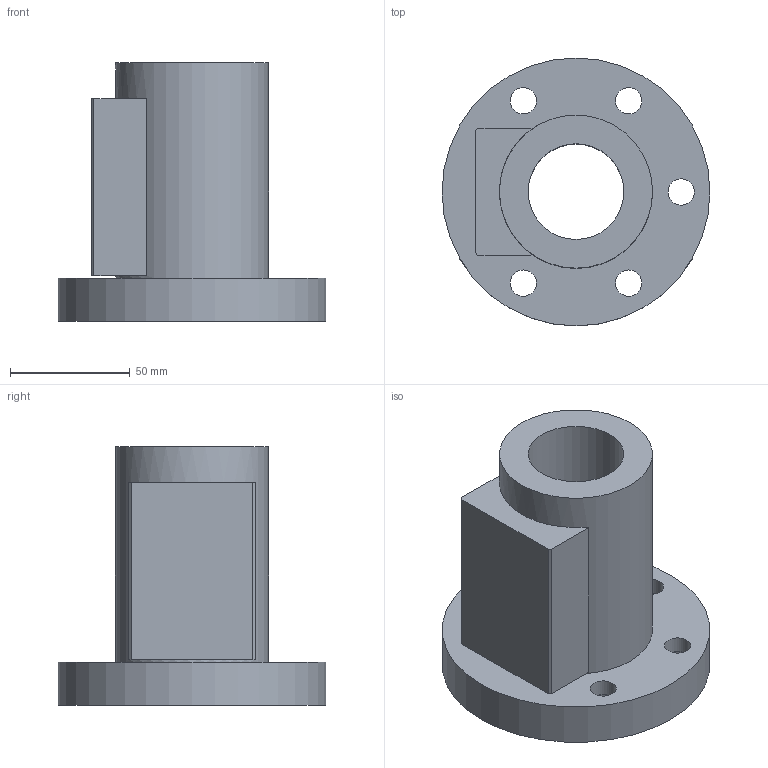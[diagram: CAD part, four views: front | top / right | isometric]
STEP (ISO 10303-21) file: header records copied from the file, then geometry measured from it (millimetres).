
FILE_DESCRIPTION(/* description */ (''),/* implementation_level */ '2;1');
FILE_NAME(/* name */ '40-12B2',/* time_stamp */ '2006-07-31T10:06:58+08:00',/* author */ (''),/* organization */ (''),/* preprocessor_version */ 'ST-DEVELOPER v9',/* originating_system */ 'UGS - NX 4.0',/* authorisation */ '');
FILE_SCHEMA (('CONFIG_CONTROL_DESIGN'));
Length unit declared in the file: millimetre
Products named in the file (1): 40-12B2
Bounding box: 112 x 112 x 108 mm (x, y, z)
Volume: 370071.6 mm3; surface area: 62895.8 mm2
Topology: 1 solids, 1 shells, 30 faces, 67 edges, 46 vertices
Faces by surface type: plane 17, cylinder 13
Full cylindrical faces by diameter (mm): 11 x5, 17.5 x5, 40 x1, 64 x1, 112 x1
Entity records: 860 total; most frequent: DIRECTION 140, CARTESIAN_POINT 123, ORIENTED_EDGE 100, EDGE_LOOP 62, AXIS2_PLACEMENT_3D 59, EDGE_CURVE 50, FACE_BOUND 45, VERTEX_POINT 42
